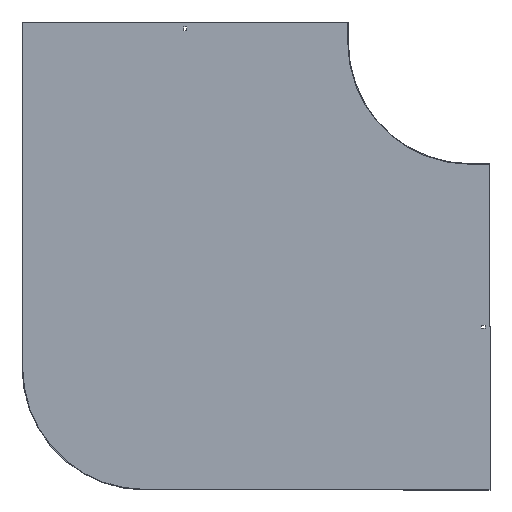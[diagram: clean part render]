
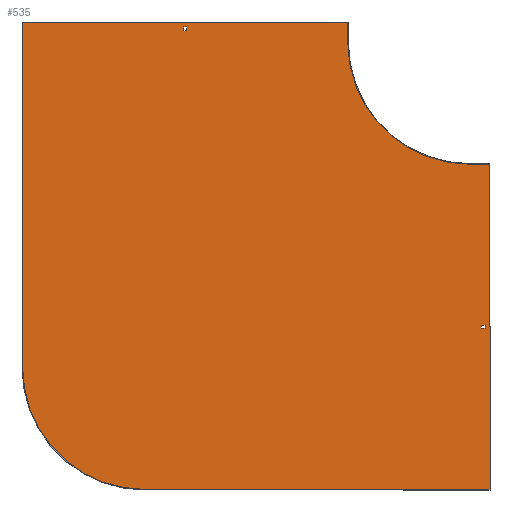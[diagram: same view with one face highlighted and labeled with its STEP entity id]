
A CAD part, front view. The second image highlights one B-rep face of the part: STEP entity #535.
In plain terms, the highlighted planar face has unit normal (0, -1, 0).
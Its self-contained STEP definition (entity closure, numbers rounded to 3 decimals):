
#5 = VECTOR ( 'NONE', #248, 1000. ) ;
#7 = CARTESIAN_POINT ( 'NONE',  ( -1100., -1.5, -800. ) ) ;
#20 = ORIENTED_EDGE ( 'NONE', *, *, #652, .F. ) ;
#27 = FACE_BOUND ( 'NONE', #663, .T. ) ;
#33 = CARTESIAN_POINT ( 'NONE',  ( 0., -1.5, 29. ) ) ;
#37 = CARTESIAN_POINT ( 'NONE',  ( 0., -1.5, 0. ) ) ;
#43 = VECTOR ( 'NONE', #409, 1000. ) ;
#45 = VECTOR ( 'NONE', #105, 1000. ) ;
#47 = EDGE_CURVE ( 'NONE', #750, #335, #490, .T. ) ;
#68 = DIRECTION ( 'NONE',  ( 0., 0., 1. ) ) ;
#74 = DIRECTION ( 'NONE',  ( 0., 0., -1. ) ) ;
#75 = VECTOR ( 'NONE', #344, 1000. ) ;
#85 = CARTESIAN_POINT ( 'NONE',  ( 0., -1.5, -703.25 ) ) ;
#86 = VECTOR ( 'NONE', #601, 1000. ) ;
#91 = VERTEX_POINT ( 'NONE', #525 ) ;
#102 = VECTOR ( 'NONE', #127, 1000. ) ;
#103 = AXIS2_PLACEMENT_3D ( 'NONE', #468, #673, #474 ) ;
#105 = DIRECTION ( 'NONE',  ( -1., 0., 0. ) ) ;
#111 = CARTESIAN_POINT ( 'NONE',  ( -1101.5, -1.5, 50. ) ) ;
#124 = LINE ( 'NONE', #634, #688 ) ;
#127 = DIRECTION ( 'NONE',  ( 0., 0., -1. ) ) ;
#128 = EDGE_CURVE ( 'NONE', #849, #785, #738, .T. ) ;
#135 = VECTOR ( 'NONE', #700, 1000. ) ;
#137 = CARTESIAN_POINT ( 'NONE',  ( 38., -1.5, -696.75 ) ) ;
#140 = EDGE_CURVE ( 'NONE', #798, #849, #326, .T. ) ;
#144 = CARTESIAN_POINT ( 'NONE',  ( 0., -1.5, 38. ) ) ;
#145 = ORIENTED_EDGE ( 'NONE', *, *, #740, .F. ) ;
#165 = DIRECTION ( 'NONE',  ( 1., 0., 0. ) ) ;
#173 = DIRECTION ( 'NONE',  ( 0., -1., 0. ) ) ;
#174 = EDGE_CURVE ( 'NONE', #822, #362, #667, .T. ) ;
#180 = CARTESIAN_POINT ( 'NONE',  ( -800., -1.5, -1100. ) ) ;
#182 = CARTESIAN_POINT ( 'NONE',  ( 38., -1.5, -703.25 ) ) ;
#193 = VERTEX_POINT ( 'NONE', #473 ) ;
#196 = CARTESIAN_POINT ( 'NONE',  ( -696.75, -1.5, 0. ) ) ;
#199 = ORIENTED_EDGE ( 'NONE', *, *, #174, .F. ) ;
#200 = VECTOR ( 'NONE', #68, 1000. ) ;
#213 = ORIENTED_EDGE ( 'NONE', *, *, #279, .F. ) ;
#223 = ORIENTED_EDGE ( 'NONE', *, *, #507, .T. ) ;
#227 = VECTOR ( 'NONE', #378, 1000. ) ;
#234 = FACE_OUTER_BOUND ( 'NONE', #318, .T. ) ;
#245 = VERTEX_POINT ( 'NONE', #246 ) ;
#246 = CARTESIAN_POINT ( 'NONE',  ( -1100., -1.5, 50. ) ) ;
#247 = VERTEX_POINT ( 'NONE', #508 ) ;
#248 = DIRECTION ( 'NONE',  ( 0., 0., -1. ) ) ;
#251 = DIRECTION ( 'NONE',  ( 1., 0., 0. ) ) ;
#258 = LINE ( 'NONE', #518, #403 ) ;
#259 = CARTESIAN_POINT ( 'NONE',  ( 50., -1.5, -298.5 ) ) ;
#277 = CARTESIAN_POINT ( 'NONE',  ( -703.25, -1.5, 0. ) ) ;
#279 = EDGE_CURVE ( 'NONE', #335, #91, #452, .T. ) ;
#281 = EDGE_LOOP ( 'NONE', ( #549, #613, #223, #480 ) ) ;
#296 = FACE_BOUND ( 'NONE', #281, .T. ) ;
#301 = EDGE_CURVE ( 'NONE', #247, #750, #529, .T. ) ;
#304 = ORIENTED_EDGE ( 'NONE', *, *, #338, .F. ) ;
#316 = CARTESIAN_POINT ( 'NONE',  ( -703.25, -1.5, 38. ) ) ;
#318 = EDGE_LOOP ( 'NONE', ( #145, #606, #765, #304, #213, #458, #546, #770 ) ) ;
#326 = LINE ( 'NONE', #277, #43 ) ;
#335 = VERTEX_POINT ( 'NONE', #580 ) ;
#338 = EDGE_CURVE ( 'NONE', #91, #594, #863, .T. ) ;
#344 = DIRECTION ( 'NONE',  ( 1., 0., 0. ) ) ;
#345 = CARTESIAN_POINT ( 'NONE',  ( -696.75, -1.5, 29. ) ) ;
#362 = VERTEX_POINT ( 'NONE', #137 ) ;
#378 = DIRECTION ( 'NONE',  ( -1., 0., 0. ) ) ;
#403 = VECTOR ( 'NONE', #787, 1000. ) ;
#409 = DIRECTION ( 'NONE',  ( 0., 0., 1. ) ) ;
#410 = VERTEX_POINT ( 'NONE', #469 ) ;
#411 = LINE ( 'NONE', #85, #75 ) ;
#430 = LINE ( 'NONE', #33, #45 ) ;
#431 = VERTEX_POINT ( 'NONE', #345 ) ;
#451 = LINE ( 'NONE', #713, #782 ) ;
#452 = LINE ( 'NONE', #259, #102 ) ;
#458 = ORIENTED_EDGE ( 'NONE', *, *, #47, .F. ) ;
#468 = CARTESIAN_POINT ( 'NONE',  ( -800., -1.5, -800. ) ) ;
#469 = CARTESIAN_POINT ( 'NONE',  ( -300., -1.5, 50. ) ) ;
#473 = CARTESIAN_POINT ( 'NONE',  ( 29., -1.5, -696.75 ) ) ;
#474 = DIRECTION ( 'NONE',  ( 0., 0., -1. ) ) ;
#480 = ORIENTED_EDGE ( 'NONE', *, *, #140, .T. ) ;
#488 = VECTOR ( 'NONE', #251, 1000. ) ;
#490 = LINE ( 'NONE', #751, #661 ) ;
#496 = PLANE ( 'NONE',  #589 ) ;
#507 = EDGE_CURVE ( 'NONE', #431, #798, #430, .T. ) ;
#508 = CARTESIAN_POINT ( 'NONE',  ( -300., -1.5, 0. ) ) ;
#518 = CARTESIAN_POINT ( 'NONE',  ( -1100., -1.5, -800. ) ) ;
#519 = DIRECTION ( 'NONE',  ( 0., -1., 0. ) ) ;
#523 = DIRECTION ( 'NONE',  ( 0., 0., -1. ) ) ;
#525 = CARTESIAN_POINT ( 'NONE',  ( 50., -1.5, -1100. ) ) ;
#529 = CIRCLE ( 'NONE', #735, 300. ) ;
#535 = ADVANCED_FACE ( 'NONE', ( #27, #234, #296 ), #496, .T. ) ;
#546 = ORIENTED_EDGE ( 'NONE', *, *, #301, .F. ) ;
#549 = ORIENTED_EDGE ( 'NONE', *, *, #128, .T. ) ;
#564 = CARTESIAN_POINT ( 'NONE',  ( -703.25, -1.5, 29. ) ) ;
#580 = CARTESIAN_POINT ( 'NONE',  ( 50., -1.5, -300. ) ) ;
#589 = AXIS2_PLACEMENT_3D ( 'NONE', #37, #173, #764 ) ;
#592 = CARTESIAN_POINT ( 'NONE',  ( 0., -1.5, -300. ) ) ;
#594 = VERTEX_POINT ( 'NONE', #180 ) ;
#601 = DIRECTION ( 'NONE',  ( 1., 0., 0. ) ) ;
#606 = ORIENTED_EDGE ( 'NONE', *, *, #647, .F. ) ;
#613 = ORIENTED_EDGE ( 'NONE', *, *, #641, .T. ) ;
#622 = ORIENTED_EDGE ( 'NONE', *, *, #721, .F. ) ;
#634 = CARTESIAN_POINT ( 'NONE',  ( -300., -1.5, 50. ) ) ;
#636 = LINE ( 'NONE', #196, #5 ) ;
#638 = CARTESIAN_POINT ( 'NONE',  ( 0., -1.5, -696.75 ) ) ;
#641 = EDGE_CURVE ( 'NONE', #785, #431, #636, .T. ) ;
#647 = EDGE_CURVE ( 'NONE', #833, #245, #258, .T. ) ;
#648 = CARTESIAN_POINT ( 'NONE',  ( 0., -1.5, 0. ) ) ;
#652 = EDGE_CURVE ( 'NONE', #193, #821, #451, .T. ) ;
#661 = VECTOR ( 'NONE', #165, 1000. ) ;
#663 = EDGE_LOOP ( 'NONE', ( #622, #199, #804, #20 ) ) ;
#667 = LINE ( 'NONE', #724, #200 ) ;
#673 = DIRECTION ( 'NONE',  ( 0., 1., 0. ) ) ;
#688 = VECTOR ( 'NONE', #772, 1000. ) ;
#691 = EDGE_CURVE ( 'NONE', #594, #833, #718, .T. ) ;
#692 = EDGE_CURVE ( 'NONE', #821, #822, #411, .T. ) ;
#700 = DIRECTION ( 'NONE',  ( -1., 0., 0. ) ) ;
#713 = CARTESIAN_POINT ( 'NONE',  ( 29., -1.5, 0. ) ) ;
#718 = CIRCLE ( 'NONE', #103, 300. ) ;
#720 = CARTESIAN_POINT ( 'NONE',  ( 50., -1.5, -1100. ) ) ;
#721 = EDGE_CURVE ( 'NONE', #362, #193, #838, .T. ) ;
#724 = CARTESIAN_POINT ( 'NONE',  ( 38., -1.5, 0. ) ) ;
#735 = AXIS2_PLACEMENT_3D ( 'NONE', #648, #519, #523 ) ;
#738 = LINE ( 'NONE', #144, #86 ) ;
#740 = EDGE_CURVE ( 'NONE', #245, #410, #852, .T. ) ;
#750 = VERTEX_POINT ( 'NONE', #592 ) ;
#751 = CARTESIAN_POINT ( 'NONE',  ( 0., -1.5, -300. ) ) ;
#764 = DIRECTION ( 'NONE',  ( 0., 0., -1. ) ) ;
#765 = ORIENTED_EDGE ( 'NONE', *, *, #691, .F. ) ;
#770 = ORIENTED_EDGE ( 'NONE', *, *, #806, .F. ) ;
#772 = DIRECTION ( 'NONE',  ( 0., 0., -1. ) ) ;
#782 = VECTOR ( 'NONE', #74, 1000. ) ;
#785 = VERTEX_POINT ( 'NONE', #828 ) ;
#787 = DIRECTION ( 'NONE',  ( 0., 0., 1. ) ) ;
#798 = VERTEX_POINT ( 'NONE', #564 ) ;
#802 = CARTESIAN_POINT ( 'NONE',  ( 29., -1.5, -703.25 ) ) ;
#804 = ORIENTED_EDGE ( 'NONE', *, *, #692, .F. ) ;
#806 = EDGE_CURVE ( 'NONE', #410, #247, #124, .T. ) ;
#821 = VERTEX_POINT ( 'NONE', #802 ) ;
#822 = VERTEX_POINT ( 'NONE', #182 ) ;
#828 = CARTESIAN_POINT ( 'NONE',  ( -696.75, -1.5, 38. ) ) ;
#833 = VERTEX_POINT ( 'NONE', #7 ) ;
#838 = LINE ( 'NONE', #638, #135 ) ;
#849 = VERTEX_POINT ( 'NONE', #316 ) ;
#852 = LINE ( 'NONE', #111, #488 ) ;
#863 = LINE ( 'NONE', #720, #227 ) ;
